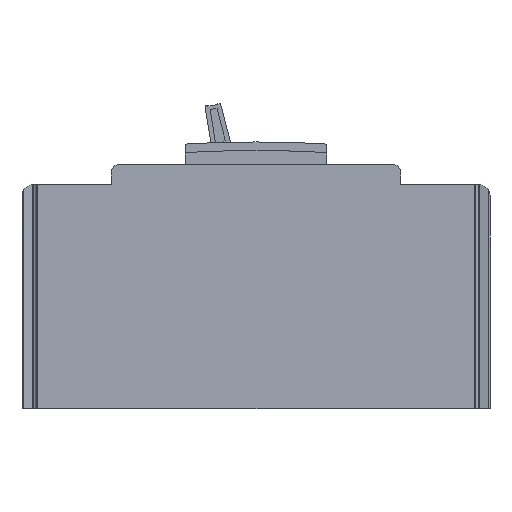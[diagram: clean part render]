
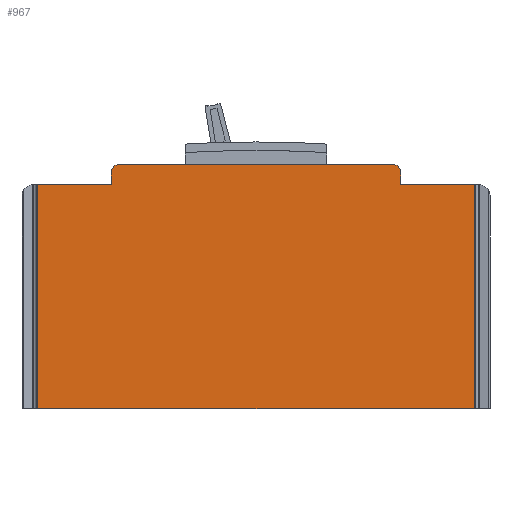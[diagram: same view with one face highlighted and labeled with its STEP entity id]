
A CAD part, left-side view. The second image highlights one B-rep face of the part: STEP entity #967.
In plain terms, the highlighted planar face has unit normal (-1, 0, 0).
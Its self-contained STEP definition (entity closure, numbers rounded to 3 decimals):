
#18 = EDGE_CURVE ( 'NONE', #11096, #7137, #10993, .T. ) ;
#105 = DIRECTION ( 'NONE',  ( 1., 0., 0. ) ) ;
#232 = ORIENTED_EDGE ( 'NONE', *, *, #1385, .T. ) ;
#358 = VERTEX_POINT ( 'NONE', #7663 ) ;
#421 = VERTEX_POINT ( 'NONE', #7694 ) ;
#433 = ORIENTED_EDGE ( 'NONE', *, *, #1349, .F. ) ;
#917 = CARTESIAN_POINT ( 'NONE',  ( -52.5, 51., 0. ) ) ;
#967 = ADVANCED_FACE ( 'NONE', ( #5276 ), #2727, .F. ) ;
#1056 = VECTOR ( 'NONE', #6754, 1000. ) ;
#1188 = VERTEX_POINT ( 'NONE', #10040 ) ;
#1228 = LINE ( 'NONE', #9064, #10233 ) ;
#1349 = EDGE_CURVE ( 'NONE', #3501, #2616, #5159, .T. ) ;
#1385 = EDGE_CURVE ( 'NONE', #421, #1188, #9109, .T. ) ;
#1398 = LINE ( 'NONE', #9083, #9717 ) ;
#1515 = CARTESIAN_POINT ( 'NONE',  ( -52.5, -77., 107.595 ) ) ;
#1532 = CARTESIAN_POINT ( 'NONE',  ( -52.5, -51., 0. ) ) ;
#1566 = DIRECTION ( 'NONE',  ( 0., 0., 1. ) ) ;
#1654 = CARTESIAN_POINT ( 'NONE',  ( -52.5, 48.5, 86. ) ) ;
#1705 = VECTOR ( 'NONE', #6624, 1000. ) ;
#1709 = LINE ( 'NONE', #5867, #6461 ) ;
#1756 = DIRECTION ( 'NONE',  ( 0., 0., -1. ) ) ;
#1800 = CARTESIAN_POINT ( 'NONE',  ( -52.5, 48.5, 83.5 ) ) ;
#1814 = DIRECTION ( 'NONE',  ( 0., 1., 0. ) ) ;
#2160 = VERTEX_POINT ( 'NONE', #11093 ) ;
#2209 = EDGE_CURVE ( 'NONE', #8728, #8641, #7574, .T. ) ;
#2292 = ORIENTED_EDGE ( 'NONE', *, *, #9156, .T. ) ;
#2616 = VERTEX_POINT ( 'NONE', #8094 ) ;
#2632 = CARTESIAN_POINT ( 'NONE',  ( -52.5, 51., 83.5 ) ) ;
#2713 = CARTESIAN_POINT ( 'NONE',  ( -52.5, -48.5, 86. ) ) ;
#2727 = PLANE ( 'NONE',  #3409 ) ;
#2760 = EDGE_CURVE ( 'NONE', #1188, #2160, #1709, .T. ) ;
#2892 = ORIENTED_EDGE ( 'NONE', *, *, #7946, .T. ) ;
#2999 = CARTESIAN_POINT ( 'NONE',  ( -52.5, 0., 0. ) ) ;
#3409 = AXIS2_PLACEMENT_3D ( 'NONE', #3610, #6231, #7806 ) ;
#3501 = VERTEX_POINT ( 'NONE', #7116 ) ;
#3610 = CARTESIAN_POINT ( 'NONE',  ( -52.5, 0., 0. ) ) ;
#3915 = DIRECTION ( 'NONE',  ( 0., 1., 0. ) ) ;
#4009 = EDGE_CURVE ( 'NONE', #3501, #358, #1398, .T. ) ;
#4016 = CARTESIAN_POINT ( 'NONE',  ( -52.5, -48.5, 83.5 ) ) ;
#4411 = ORIENTED_EDGE ( 'NONE', *, *, #5486, .T. ) ;
#4417 = VECTOR ( 'NONE', #1566, 1000. ) ;
#4778 = DIRECTION ( 'NONE',  ( 0., 1., 0. ) ) ;
#5137 = ORIENTED_EDGE ( 'NONE', *, *, #2760, .T. ) ;
#5159 = LINE ( 'NONE', #1515, #1056 ) ;
#5276 = FACE_OUTER_BOUND ( 'NONE', #8460, .T. ) ;
#5411 = LINE ( 'NONE', #917, #7184 ) ;
#5486 = EDGE_CURVE ( 'NONE', #8728, #7137, #1228, .T. ) ;
#5867 = CARTESIAN_POINT ( 'NONE',  ( -52.5, 77., 107.595 ) ) ;
#5918 = DIRECTION ( 'NONE',  ( 0., 0., -1. ) ) ;
#6003 = ORIENTED_EDGE ( 'NONE', *, *, #18, .F. ) ;
#6231 = DIRECTION ( 'NONE',  ( 1., 0., 0. ) ) ;
#6461 = VECTOR ( 'NONE', #10294, 1000. ) ;
#6624 = DIRECTION ( 'NONE',  ( 0., 1., 0. ) ) ;
#6645 = DIRECTION ( 'NONE',  ( 1., 0., 0. ) ) ;
#6754 = DIRECTION ( 'NONE',  ( 0., 0., -1. ) ) ;
#6917 = VECTOR ( 'NONE', #1814, 1000. ) ;
#7116 = CARTESIAN_POINT ( 'NONE',  ( -52.5, -77., 79. ) ) ;
#7137 = VERTEX_POINT ( 'NONE', #1654 ) ;
#7184 = VECTOR ( 'NONE', #7786, 1000. ) ;
#7201 = AXIS2_PLACEMENT_3D ( 'NONE', #1800, #105, #1756 ) ;
#7574 = CIRCLE ( 'NONE', #10336, 2.5 ) ;
#7663 = CARTESIAN_POINT ( 'NONE',  ( -52.5, -51., 79. ) ) ;
#7685 = LINE ( 'NONE', #1532, #4417 ) ;
#7694 = CARTESIAN_POINT ( 'NONE',  ( -52.5, 51., 79. ) ) ;
#7786 = DIRECTION ( 'NONE',  ( 0., 0., -1. ) ) ;
#7806 = DIRECTION ( 'NONE',  ( 0., 0., -1. ) ) ;
#7921 = CARTESIAN_POINT ( 'NONE',  ( -52.5, -51., 83.5 ) ) ;
#7946 = EDGE_CURVE ( 'NONE', #11096, #421, #5411, .T. ) ;
#8094 = CARTESIAN_POINT ( 'NONE',  ( -52.5, -77., 0. ) ) ;
#8245 = LINE ( 'NONE', #2999, #1705 ) ;
#8326 = ORIENTED_EDGE ( 'NONE', *, *, #4009, .T. ) ;
#8460 = EDGE_LOOP ( 'NONE', ( #11249, #4411, #6003, #2892, #232, #5137, #11104, #433, #8326, #2292 ) ) ;
#8641 = VERTEX_POINT ( 'NONE', #7921 ) ;
#8728 = VERTEX_POINT ( 'NONE', #2713 ) ;
#8901 = EDGE_CURVE ( 'NONE', #2616, #2160, #8245, .T. ) ;
#9064 = CARTESIAN_POINT ( 'NONE',  ( -52.5, 0., 86. ) ) ;
#9083 = CARTESIAN_POINT ( 'NONE',  ( -52.5, 0., 79. ) ) ;
#9109 = LINE ( 'NONE', #10404, #6917 ) ;
#9156 = EDGE_CURVE ( 'NONE', #358, #8641, #7685, .T. ) ;
#9717 = VECTOR ( 'NONE', #4778, 1000. ) ;
#10040 = CARTESIAN_POINT ( 'NONE',  ( -52.5, 77., 79. ) ) ;
#10233 = VECTOR ( 'NONE', #3915, 1000. ) ;
#10294 = DIRECTION ( 'NONE',  ( 0., 0., -1. ) ) ;
#10336 = AXIS2_PLACEMENT_3D ( 'NONE', #4016, #6645, #5918 ) ;
#10404 = CARTESIAN_POINT ( 'NONE',  ( -52.5, 0., 79. ) ) ;
#10993 = CIRCLE ( 'NONE', #7201, 2.5 ) ;
#11093 = CARTESIAN_POINT ( 'NONE',  ( -52.5, 77., 0. ) ) ;
#11096 = VERTEX_POINT ( 'NONE', #2632 ) ;
#11104 = ORIENTED_EDGE ( 'NONE', *, *, #8901, .F. ) ;
#11249 = ORIENTED_EDGE ( 'NONE', *, *, #2209, .F. ) ;
